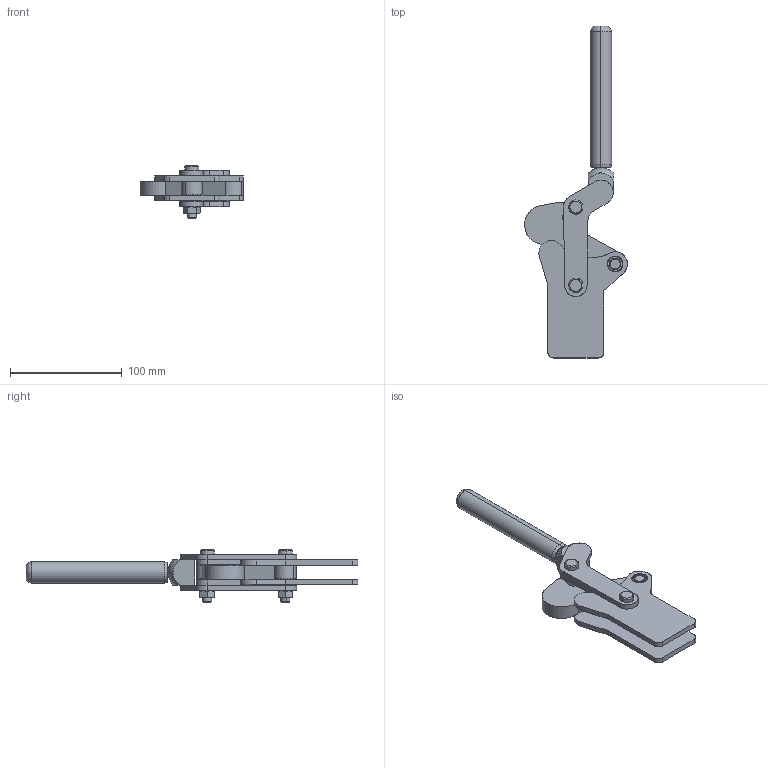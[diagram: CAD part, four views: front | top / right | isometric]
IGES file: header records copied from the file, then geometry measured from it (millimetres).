
Start section: SolidWorks IGES file using analytic representation for surfaces
Global section: file name: C:\Projetos\Grampos\KFU\KFU-05\KFU-05 R.IGS; native system: SolidWorks 2012; preprocessor: SolidWorks 2012; author: Ricardo; date: 121122.164757; units: millimetre
Bounding box: 91.98 x 296.97 x 47 mm (x, y, z)
Surface area: 73456.7 mm2 (no closed solid volume)
Topology: 0 solids, 0 shells, 330 faces, 5350 edges, 5343 vertices
Faces by surface type: revolution 231, bspline 99
